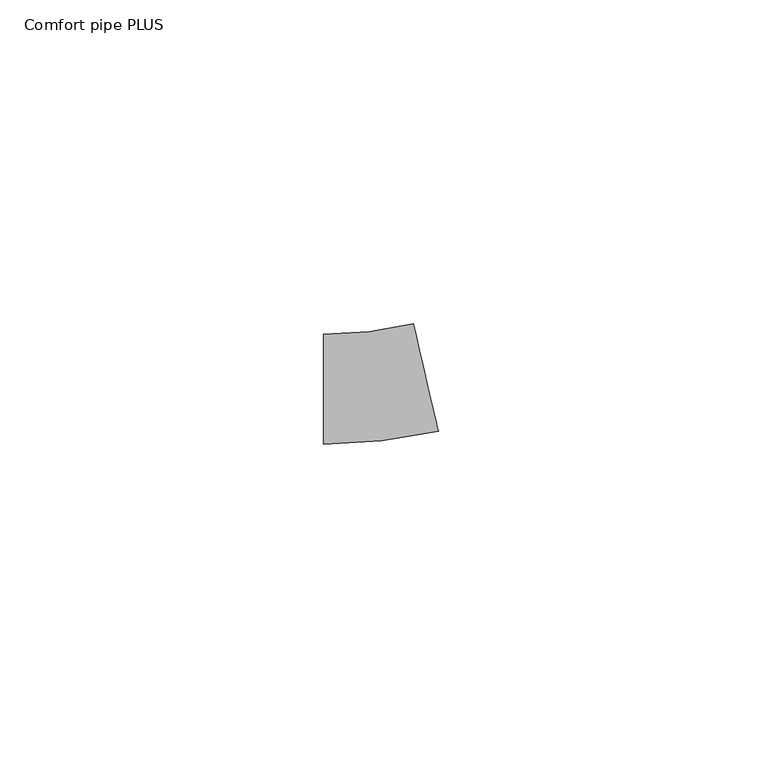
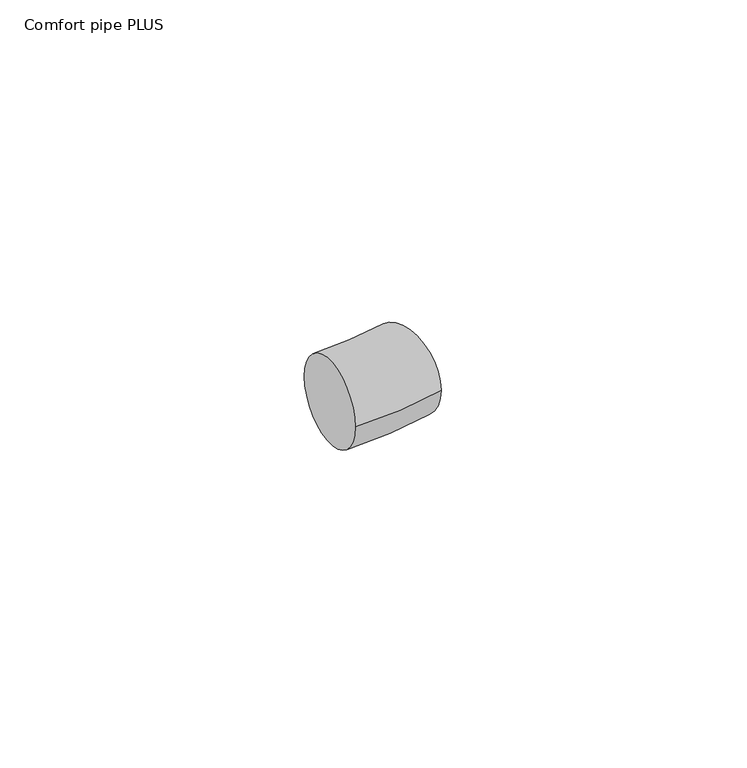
"""IFC4 building model written with IfcOpenShell, lengths in millimetres: pipe fitting geometry, 400_5-_Uponor_curved_Elbow : Comfort pipe PLUS."""

import ifcopenshell
import ifcopenshell.guid

model = None  # the IFC model being written
_history = None  # IfcOwnerHistory: only IFC2X3 demands one
_inside = {}  # id of a spatial element -> (the spatial element, [elements in it])
_under = {}  # id of a project, library or spatial element -> (it, [spatial elements below it])
_declared = {}  # id of a project -> (the project, [libraries it declares])
_typed = {}  # id of a type object -> (the type object, [elements of that type])
_made_of = {}  # id of a material, layer set ... -> (it, [elements and type objects made of it])


def new_model(schema):
    """Start an empty IFC model of exactly this schema.

    Asked for "IFC4X3", IfcOpenShell would pick the latest addendum, in which some entities
    have other attributes; the version numbers below select the first issue.
    IFC2X3 requires an IfcOwnerHistory on every rooted entity: one is made here for all.
    """
    global model, _history
    if schema == "IFC4X3":
        model = ifcopenshell.file(schema_version=(4, 3, 0, 0))
    else:
        model = ifcopenshell.file(schema=schema)
    _inside.clear()
    _under.clear()
    _declared.clear()
    _typed.clear()
    _made_of.clear()
    _history = None
    if model.schema == "IFC2X3":
        org = make("IfcOrganization", Name="unknown")
        user = make(
            "IfcPersonAndOrganization",
            ThePerson=make("IfcPerson", FamilyName="unknown"),
            TheOrganization=org,
        )
        app = make(
            "IfcApplication",
            ApplicationDeveloper=org,
            Version="unknown",
            ApplicationFullName="unknown",
            ApplicationIdentifier="unknown",
        )
        _history = make(
            "IfcOwnerHistory",
            OwningUser=user,
            OwningApplication=app,
            ChangeAction="ADDED",
            CreationDate=0,
        )
    return model


def make(cls, **values):
    """One entity of the class cls with the attributes given. An attribute that is None is left unset."""
    return model.create_entity(
        cls, **{name: value for name, value in values.items() if value is not None}
    )


def rooted(cls, **values):
    """An entity with a GlobalId (a new one), such as an element, a storey or a relation."""
    return make(cls, GlobalId=ifcopenshell.guid.new(), OwnerHistory=_history, **values)


def si_unit(unit_type, name, prefix=None):
    """IfcSIUnit, for example si_unit("LENGTHUNIT", "METRE", prefix="MILLI")."""
    return make("IfcSIUnit", UnitType=unit_type, Prefix=prefix, Name=name)


def assignment(units):
    """IfcUnitAssignment: the units of a project."""
    return None if units is None else make("IfcUnitAssignment", Units=units)


def point(xyz):
    """IfcCartesianPoint."""
    return None if xyz is None else make("IfcCartesianPoint", Coordinates=xyz)


def direction(xyz):
    """IfcDirection."""
    return None if xyz is None else make("IfcDirection", DirectionRatios=xyz)


def frame(location, z_axis=None, x_axis=None):
    """IfcAxis2Placement3D, a coordinate frame: its origin and axes. An axis left out is left unset."""
    return make(
        "IfcAxis2Placement3D",
        Location=point(location),
        Axis=direction(z_axis),
        RefDirection=direction(x_axis),
    )


def origin():
    """The frame at (0, 0, 0) with its axes left unset."""
    return frame((0.0, 0.0, 0.0))


def place(relative_to, where):
    """IfcLocalPlacement: puts the frame where relative to a parent placement (None: the world)."""
    return make(
        "IfcLocalPlacement", PlacementRelTo=relative_to, RelativePlacement=where
    )


def context(
    kind, dimensions, precision=None, world=None, true_north=None, identifier=None
):
    """IfcGeometricRepresentationContext, for example the 3D "Model" context."""
    return make(
        "IfcGeometricRepresentationContext",
        ContextIdentifier=identifier,
        ContextType=kind,
        CoordinateSpaceDimension=dimensions,
        Precision=precision,
        WorldCoordinateSystem=world,
        TrueNorth=true_north,
    )


def project(units=None, contexts=None):
    """IfcProject with its units and contexts."""
    return rooted(
        "IfcProject",
        Name="project",
        RepresentationContexts=contexts,
        UnitsInContext=assignment(units),
    )


def spatial(cls, under=None, at=None, **own):
    """A site, building, storey or space (cls), placed at a placement, below another one or the project."""
    s = rooted(cls, ObjectPlacement=at, **own)
    if under is not None:
        _under.setdefault(under.id(), (under, []))[1].append(s)
    return s


def circle_curve(where, radius):
    """IfcCircle in the frame where."""
    return make("IfcCircle", Position=where, Radius=radius)


def ellipse_curve(where, semi_axis1, semi_axis2):
    """IfcEllipse in the frame where."""
    return make(
        "IfcEllipse", Position=where, SemiAxis1=semi_axis1, SemiAxis2=semi_axis2
    )


def trimmed(basis, trim1, trim2, sense, master):
    """IfcTrimmedCurve: the piece of a basis curve between two trims."""
    return make(
        "IfcTrimmedCurve",
        BasisCurve=basis,
        Trim1=trim1,
        Trim2=trim2,
        SenseAgreement=sense,
        MasterRepresentation=master,
    )


def shape(context_of_items, identifier, shape_type, items):
    """IfcShapeRepresentation: the items that make up one representation, for example the "Body"."""
    return make(
        "IfcShapeRepresentation",
        ContextOfItems=context_of_items,
        RepresentationIdentifier=identifier,
        RepresentationType=shape_type,
        Items=items,
    )


def source(mapping_origin, context_of_items, identifier, shape_type, items):
    """IfcRepresentationMap: a shape defined once, which mapped items show again and again."""
    return make(
        "IfcRepresentationMap",
        MappingOrigin=mapping_origin,
        MappedRepresentation=shape(context_of_items, identifier, shape_type, items),
    )


def transform(
    local_origin,
    x_axis=None,
    y_axis=None,
    z_axis=None,
    scale=None,
    scale2=None,
    scale3=None,
    uniform=True,
):
    """IfcCartesianTransformationOperator3D, or its non-uniform kind. x_axis, y_axis, z_axis: its Axis1, 2, 3."""
    if uniform:
        return make(
            "IfcCartesianTransformationOperator3D",
            Axis1=direction(x_axis),
            Axis2=direction(y_axis),
            LocalOrigin=point(local_origin),
            Scale=scale,
            Axis3=direction(z_axis),
        )
    return make(
        "IfcCartesianTransformationOperator3DnonUniform",
        Axis1=direction(x_axis),
        Axis2=direction(y_axis),
        LocalOrigin=point(local_origin),
        Scale=scale,
        Axis3=direction(z_axis),
        Scale2=scale2,
        Scale3=scale3,
    )


def mapped(mapping_source, mapping_target):
    """IfcMappedItem: shows the shape of a source again, moved by a transform."""
    return make(
        "IfcMappedItem", MappingSource=mapping_source, MappingTarget=mapping_target
    )


def made_of(thing, what):
    """Note that an element or type object is made of a material, layer set ...; save() writes the relation."""
    if what is not None:
        _made_of.setdefault(what.id(), (what, []))[1].append(thing)
    return thing


def element(
    cls,
    number,
    at=None,
    inside=None,
    cuts=None,
    type_object=None,
    material=None,
    context=None,
    identifier="Body",
    shape_type=None,
    held_by="IfcProductDefinitionShape",
    body=None,
    shapes=None,
    **own,
):
    """One element of the class cls, such as IfcWall. Its Tag is "e" and its number.

    at: its placement. inside: the storey or other place that contains it. cuts: it is an
    opening in that element (IfcRelVoidsElement). A single representation is given by context,
    identifier, shape_type and body (its items); several are given by shapes. held_by: the class
    of the entity that holds the representations. save() writes the other relations.
    """
    e = rooted(cls, Tag="e%d" % number, ObjectPlacement=at, **own)
    if body is not None:
        shapes = [shape(context, identifier, shape_type, body)]
    if shapes is not None:
        e.Representation = make(held_by, Representations=shapes)
    if inside is not None:
        _inside.setdefault(inside.id(), (inside, []))[1].append(e)
    if cuts is not None:
        rooted(
            "IfcRelVoidsElement", RelatingBuildingElement=cuts, RelatedOpeningElement=e
        )
    if type_object is not None:
        _typed.setdefault(type_object.id(), (type_object, []))[1].append(e)
    return made_of(e, material)


def aggregate(whole, parts):
    """IfcRelAggregates: a whole, such as a stair, and the parts it consists of."""
    return rooted("IfcRelAggregates", RelatingObject=whole, RelatedObjects=parts)


def save(model, path):
    """Write the relations noted so far, then the file.

    IfcRelAggregates (storeys below a building ...), IfcRelContainedInSpatialStructure (elements
    in a storey), IfcRelDefinesByType, IfcRelAssociatesMaterial and IfcRelDeclares: one each for
    every whole, place, type object, material and project.
    """
    for whole, parts in _under.values():
        aggregate(whole, parts)
    for where, things in _inside.values():
        rooted(
            "IfcRelContainedInSpatialStructure",
            RelatedElements=things,
            RelatingStructure=where,
        )
    for kind, things in _typed.values():
        rooted("IfcRelDefinesByType", RelatedObjects=things, RelatingType=kind)
    for what, things in _made_of.values():
        rooted("IfcRelAssociatesMaterial", RelatedObjects=things, RelatingMaterial=what)
    for by, libraries in _declared.values():
        rooted("IfcRelDeclares", RelatingContext=by, RelatedDefinitions=libraries)
    model.write(path)


def plane_surface(at):
    """IfcPlane: the flat surface through the origin of the frame at, square to its z axis."""
    return make("IfcPlane", Position=at)


def revolved_surface(curve, axis_point, axis_direction):
    """IfcSurfaceOfRevolution: the curve turned about the line through axis_point along axis_direction."""
    return make(
        "IfcSurfaceOfRevolution",
        SweptCurve=make("IfcArbitraryOpenProfileDef", ProfileType="CURVE", Curve=curve),
        AxisPosition=make("IfcAxis1Placement", Location=point(axis_point), Axis=direction(axis_direction)),
    )


def advanced_brep(points, edges, surfaces, faces):
    """IfcAdvancedBrep: a solid bounded by faces that lie on surfaces and meet in shared edges.

    An edge is (start, end): straight between two places in points (the first is 0);
    or (start, end, curve); or (start, end, curve, False) where it runs against its curve.
    A face is (place in surfaces, loops), or (place, loops, False) where it looks against
    its surface's normal. A loop lists edges by number (the first is 1), with a minus sign
    where the edge is run from its end to its start. The first loop is the outer one.
    """
    corners = [point(p) for p in points]
    vertices = [make("IfcVertexPoint", VertexGeometry=c) for c in corners]
    made = []
    for start, end, *more in edges:
        made.append(
            make(
                "IfcEdgeCurve",
                EdgeStart=vertices[start],
                EdgeEnd=vertices[end],
                EdgeGeometry=more[0] if more else make("IfcPolyline", Points=[corners[start], corners[end]]),
                SameSense=more[1] if len(more) > 1 else True,
            )
        )
    hull = []
    for where, loops, *sense in faces:
        bounds = []
        for j, loop in enumerate(loops):
            ring = [make("IfcOrientedEdge", EdgeElement=made[abs(k) - 1], Orientation=k > 0) for k in loop]
            bounds.append(
                make(
                    "IfcFaceOuterBound" if j == 0 else "IfcFaceBound",
                    Bound=make("IfcEdgeLoop", EdgeList=ring),
                    Orientation=True,
                )
            )
        hull.append(make("IfcAdvancedFace", Bounds=bounds, FaceSurface=surfaces[where], SameSense=sense[0] if sense else True))
    return make("IfcAdvancedBrep", Outer=make("IfcClosedShell", CfsFaces=hull))


def comfort_pipe_plus_d8c71379(model_context):
    return source(origin(), model_context, "Body", "AdvancedBrep", [
        advanced_brep(
        [(-7.9991616, -8.5, 0.0), (-7.9991616, 8.5, 0.0), (9.7105531, -6.4762447, 0.0), (5.8753282, 10.0854898, 0.0)],
        [
            (0, 1, circle_curve(frame((-7.9991616, 0.0, 0.0), z_axis=(-1.0, 0.0, 0.0), x_axis=(0.0, 1.0, 0.0)), 8.5)),
            (1, 0, circle_curve(frame((-7.9991616, 0.0, 0.0), z_axis=(-1.0, 0.0, 0.0), x_axis=(0.0, 1.0, 0.0)), 8.5)),
            (2, 3, circle_curve(frame((7.7929407, 1.8046226, 0.0), z_axis=(0.9742196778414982, 0.22560146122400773, 0.0), x_axis=(-0.22560146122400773, 0.9742196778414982, 0.0)), 8.5)),
            (3, 2, circle_curve(frame((7.7929407, 1.8046226, 0.0), z_axis=(0.9742196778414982, 0.22560146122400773, 0.0), x_axis=(-0.22560146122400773, 0.9742196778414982, 0.0)), 8.5)),
            (3, 1, circle_curve(frame((-7.9991616, 70.0, 0.0), z_axis=(0.0, 0.0, -1.0), x_axis=(0.0, -1.0, 0.0)), 61.5)),
            (0, 2, circle_curve(frame((-7.9991616, 70.0, 0.0), z_axis=(0.0, 0.0, 1.0), x_axis=(0.0, -1.0, 0.0)), 78.5)),
        ],
        [
            plane_surface(frame((-7.9991616, 0.0, 0.0), z_axis=(-1.0, 0.0, 0.0), x_axis=(0.0, 0.0, 1.0))),
            plane_surface(frame((7.7929407, 1.8046226, 0.0), z_axis=(0.9742196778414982, 0.2256014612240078, 0.0), x_axis=(0.0, 0.0, 1.0))),
            revolved_surface(trimmed(ellipse_curve(frame((-7.9991616, 0.0, 0.0), z_axis=(-1.0, 0.0, 0.0), x_axis=(0.0, 1.0, 0.0)), 8.5, 8.5), [point((-7.9991616, -8.5, 0.0))], [point((-7.9991616, 8.5, 0.0))], True, "CARTESIAN"), (-7.9991616, 70.0, 0.0), (0.0, 0.0, 1.0)),
            revolved_surface(trimmed(ellipse_curve(frame((-7.9991616, 0.0, 0.0), z_axis=(-1.0, 0.0, 0.0), x_axis=(0.0, 1.0, 0.0)), 8.5, 8.5), [point((-7.9991616, 8.5, 0.0))], [point((-7.9991616, -8.5, 0.0))], True, "CARTESIAN"), (-7.9991616, 70.0, 0.0), (0.0, 0.0, 1.0)),
        ],
        [
            (0, [[1, 2]]),
            (1, [[3, 4]]),
            (2, [[5, -1, 6, -4]]),
            (3, [[-6, -2, -5, -3]]),
        ],
    ),
    ])


if __name__ == "__main__":
    model = new_model("IFC4")
    model_context = context("Model", 3, world=origin())
    ifc_project = project(units=[si_unit("LENGTHUNIT", "METRE", prefix="MILLI")], contexts=[model_context])
    site = spatial("IfcSite", under=ifc_project)
    building = spatial("IfcBuilding", under=site)
    placement = place(None, origin())
    comfort_pipe_plus_shape = comfort_pipe_plus_d8c71379(model_context)
    element("IfcPipeFitting", 1, ObjectType="400_5-_Uponor_curved_Elbow : Comfort pipe PLUS", at=placement, inside=building, context=model_context, shape_type="MappedRepresentation", body=[
        mapped(comfort_pipe_plus_shape, transform((0.0, 0.0, 0.0), x_axis=(1.0, 0.0, 0.0), y_axis=(0.0, 1.0, 0.0), z_axis=(0.0, 0.0, 1.0))),
    ])
    save(model, "model.ifc")
